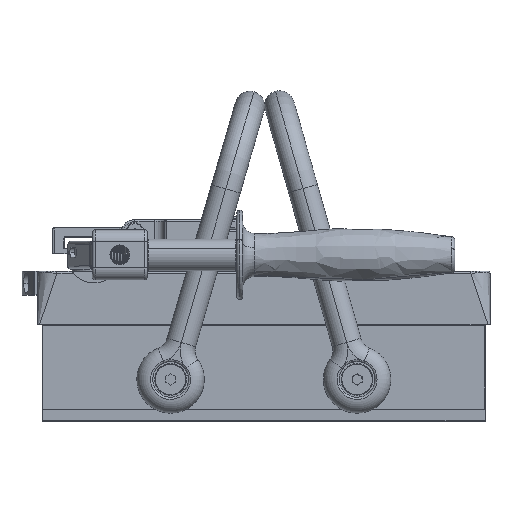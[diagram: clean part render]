
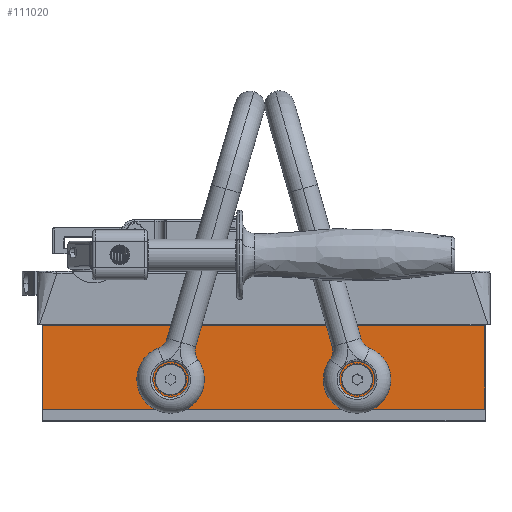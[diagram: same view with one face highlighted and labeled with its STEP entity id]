
A CAD part, top view. The second image highlights one B-rep face of the part: STEP entity #111020.
In plain terms, the highlighted planar face has unit normal (0, 0, 1).
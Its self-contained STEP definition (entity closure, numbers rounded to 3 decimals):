
#15406 = VERTEX_POINT ( 'NONE', #80608 ) ;
#15407 = VERTEX_POINT ( 'NONE', #80600 ) ;
#15409 = VERTEX_POINT ( 'NONE', #80599 ) ;
#15415 = VERTEX_POINT ( 'NONE', #80607 ) ;
#15460 = VERTEX_POINT ( 'NONE', #80575 ) ;
#15792 = VERTEX_POINT ( 'NONE', #80310 ) ;
#15794 = VERTEX_POINT ( 'NONE', #80311 ) ;
#15796 = VERTEX_POINT ( 'NONE', #80312 ) ;
#21362 = PLANE ( 'NONE',  #89739 ) ;
#21391 = CARTESIAN_POINT ( 'NONE',  ( -225.5, -27.5, 71.06 ) ) ;
#21394 = DIRECTION ( 'NONE',  ( 0., 0., -1. ) ) ;
#21396 = DIRECTION ( 'NONE',  ( -1., 0., 0. ) ) ;
#34124 = EDGE_CURVE ( 'NONE', #15415, #15796, #56039, .T. ) ;
#34125 = EDGE_CURVE ( 'NONE', #15794, #15415, #56054, .T. ) ;
#34128 = EDGE_CURVE ( 'NONE', #15407, #15792, #56111, .T. ) ;
#34129 = EDGE_CURVE ( 'NONE', #15409, #15794, #56108, .T. ) ;
#34132 = EDGE_CURVE ( 'NONE', #15796, #15409, #56101, .T. ) ;
#34133 = EDGE_CURVE ( 'NONE', #15406, #15460, #56137, .T. ) ;
#34134 = EDGE_CURVE ( 'NONE', #15460, #15406, #56144, .T. ) ;
#34135 = EDGE_CURVE ( 'NONE', #15792, #15407, #56149, .T. ) ;
#49779 = EDGE_LOOP ( 'NONE', ( #66522, #66605 ) ) ;
#56039 = LINE ( 'NONE', #69882, #56078 ) ;
#56054 = LINE ( 'NONE', #70609, #56085 ) ;
#56078 = VECTOR ( 'NONE', #69986, 1000. ) ;
#56085 = VECTOR ( 'NONE', #69994, 1000. ) ;
#56088 = VECTOR ( 'NONE', #70072, 1000. ) ;
#56101 = LINE ( 'NONE', #70054, #56126 ) ;
#56108 = LINE ( 'NONE', #70013, #56088 ) ;
#56111 = CIRCLE ( 'NONE', #79724, 4. ) ;
#56126 = VECTOR ( 'NONE', #70102, 1000. ) ;
#56137 = CIRCLE ( 'NONE', #79727, 4. ) ;
#56144 = CIRCLE ( 'NONE', #79728, 4. ) ;
#56149 = CIRCLE ( 'NONE', #79729, 4. ) ;
#58323 = EDGE_LOOP ( 'NONE', ( #66633, #66563 ) ) ;
#58330 = EDGE_LOOP ( 'NONE', ( #66569, #66984, #66983, #66835 ) ) ;
#66522 = ORIENTED_EDGE ( 'NONE', *, *, #34134, .F. ) ;
#66563 = ORIENTED_EDGE ( 'NONE', *, *, #34128, .F. ) ;
#66569 = ORIENTED_EDGE ( 'NONE', *, *, #34129, .T. ) ;
#66605 = ORIENTED_EDGE ( 'NONE', *, *, #34133, .F. ) ;
#66633 = ORIENTED_EDGE ( 'NONE', *, *, #34135, .F. ) ;
#66835 = ORIENTED_EDGE ( 'NONE', *, *, #34132, .T. ) ;
#66983 = ORIENTED_EDGE ( 'NONE', *, *, #34124, .T. ) ;
#66984 = ORIENTED_EDGE ( 'NONE', *, *, #34125, .T. ) ;
#69858 = DIRECTION ( 'NONE',  ( 1., 0., 0. ) ) ;
#69882 = CARTESIAN_POINT ( 'NONE',  ( -2.6, -27.5, 71.06 ) ) ;
#69986 = DIRECTION ( 'NONE',  ( 0., 1., 0. ) ) ;
#69992 = CARTESIAN_POINT ( 'NONE',  ( -161., -54.6, 71.06 ) ) ;
#69994 = DIRECTION ( 'NONE',  ( 1., 0., 0. ) ) ;
#70011 = CARTESIAN_POINT ( 'NONE',  ( -67., -54.6, 71.06 ) ) ;
#70013 = CARTESIAN_POINT ( 'NONE',  ( -225.4, -27.5, 71.06 ) ) ;
#70028 = DIRECTION ( 'NONE',  ( 0., 0., 1. ) ) ;
#70041 = DIRECTION ( 'NONE',  ( 0., 0., 1. ) ) ;
#70043 = DIRECTION ( 'NONE',  ( 1., 0., 0. ) ) ;
#70052 = DIRECTION ( 'NONE',  ( 1., 0., 0. ) ) ;
#70054 = CARTESIAN_POINT ( 'NONE',  ( -225.5, -27.6, 71.06 ) ) ;
#70072 = DIRECTION ( 'NONE',  ( 0., -1., 0. ) ) ;
#70076 = CARTESIAN_POINT ( 'NONE',  ( -161., -54.6, 71.06 ) ) ;
#70088 = CARTESIAN_POINT ( 'NONE',  ( -67., -54.6, 71.06 ) ) ;
#70097 = DIRECTION ( 'NONE',  ( 0., 0., 1. ) ) ;
#70099 = DIRECTION ( 'NONE',  ( 1., 0., 0. ) ) ;
#70102 = DIRECTION ( 'NONE',  ( -1., 0., 0. ) ) ;
#70123 = DIRECTION ( 'NONE',  ( 0., 0., 1. ) ) ;
#70609 = CARTESIAN_POINT ( 'NONE',  ( -225.5, -69.5, 71.06 ) ) ;
#79724 = AXIS2_PLACEMENT_3D ( 'NONE', #70011, #70028, #70052 ) ;
#79727 = AXIS2_PLACEMENT_3D ( 'NONE', #70076, #70123, #69858 ) ;
#79728 = AXIS2_PLACEMENT_3D ( 'NONE', #69992, #70041, #70043 ) ;
#79729 = AXIS2_PLACEMENT_3D ( 'NONE', #70088, #70097, #70099 ) ;
#80310 = CARTESIAN_POINT ( 'NONE',  ( -63., -54.6, 71.06 ) ) ;
#80311 = CARTESIAN_POINT ( 'NONE',  ( -225.4, -69.5, 71.06 ) ) ;
#80312 = CARTESIAN_POINT ( 'NONE',  ( -2.6, -27.6, 71.06 ) ) ;
#80575 = CARTESIAN_POINT ( 'NONE',  ( -157., -54.6, 71.06 ) ) ;
#80599 = CARTESIAN_POINT ( 'NONE',  ( -225.4, -27.6, 71.06 ) ) ;
#80600 = CARTESIAN_POINT ( 'NONE',  ( -71., -54.6, 71.06 ) ) ;
#80607 = CARTESIAN_POINT ( 'NONE',  ( -2.6, -69.5, 71.06 ) ) ;
#80608 = CARTESIAN_POINT ( 'NONE',  ( -165., -54.6, 71.06 ) ) ;
#89739 = AXIS2_PLACEMENT_3D ( 'NONE', #21391, #21394, #21396 ) ;
#111020 = ADVANCED_FACE ( 'NONE', ( #112390, #112393, #112395 ), #21362, .F. ) ;
#112390 = FACE_BOUND ( 'NONE', #49779, .T. ) ;
#112393 = FACE_BOUND ( 'NONE', #58323, .T. ) ;
#112395 = FACE_OUTER_BOUND ( 'NONE', #58330, .T. ) ;
